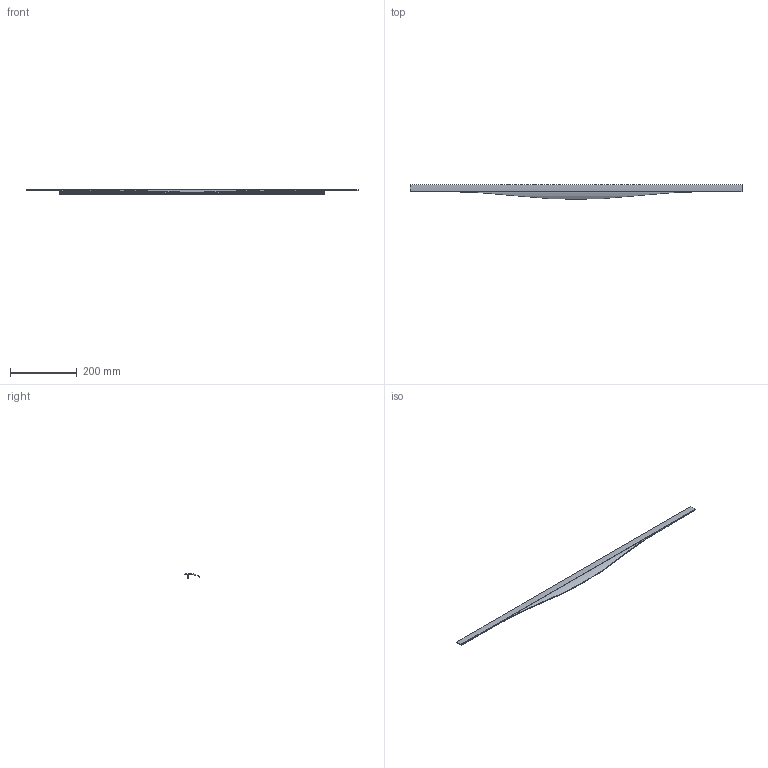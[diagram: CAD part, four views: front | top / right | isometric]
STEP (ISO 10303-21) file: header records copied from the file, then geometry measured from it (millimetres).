
FILE_DESCRIPTION( ( 'STEP AP214' ), '1' );
FILE_NAME( 'C:/Users/swati/Desktop/04-03-2016/9210062/9210062.stp', ' ', ( ' ' ), ( ' ' ), 'PSStep 15.0.47', 'PARTsolutions', ' ' );
FILE_SCHEMA( ( 'AUTOMOTIVE_DESIGN { 1 0 10303 214 1 1 1 1 }' ) );
Length unit declared in the file: millimetre
Products named in the file (2): 95 ; _
Assembly tree (1 placements, depth 2):
  95 
    _
Bounding box: 995 x 43.67 x 14 mm (x, y, z)
Volume: 95061.1 mm3; surface area: 86027 mm2
Topology: 1 solids, 1 shells, 32 faces, 87 edges, 58 vertices
Faces by surface type: plane 25, cylinder 7
Entity records: 1349 total; most frequent: CARTESIAN_POINT 253, ORIENTED_EDGE 174, DIRECTION 153, EDGE_CURVE 87, LINE 73, VECTOR 73, VERTEX_POINT 58, AXIS2_PLACEMENT_3D 40
